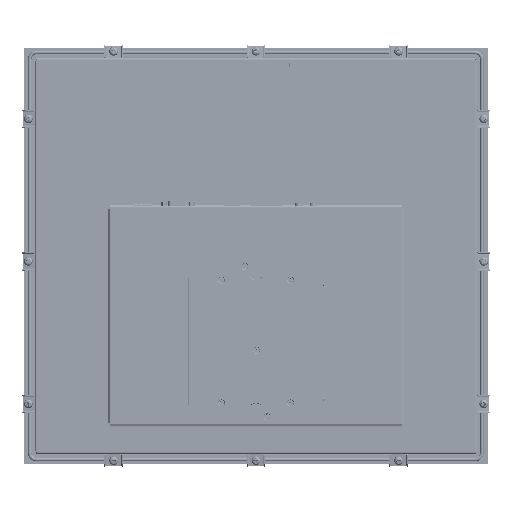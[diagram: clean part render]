
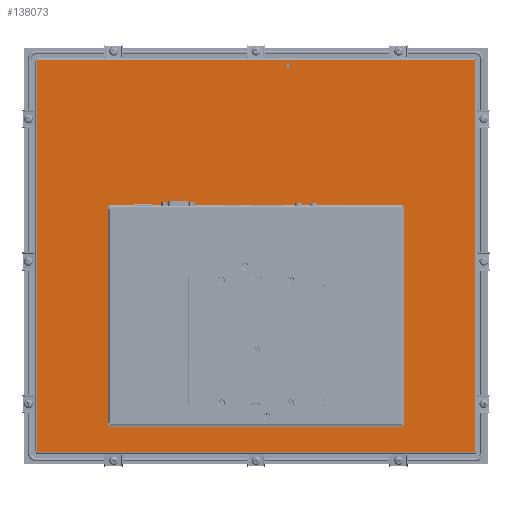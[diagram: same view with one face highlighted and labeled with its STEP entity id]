
A CAD part, front view. The second image highlights one B-rep face of the part: STEP entity #138073.
In plain terms, the highlighted planar face has unit normal (0, -1, 0).
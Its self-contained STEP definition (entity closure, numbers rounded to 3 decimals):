
#345 = CARTESIAN_POINT ( 'NONE',  ( -199.95, -15.75, 183.802 ) ) ;
#3753 = FACE_OUTER_BOUND ( 'NONE', #7405, .T. ) ;
#5679 = DIRECTION ( 'NONE',  ( -0.707, 0., -0.707 ) ) ;
#5685 = CARTESIAN_POINT ( 'NONE',  ( -135.25, -15.75, -148.698 ) ) ;
#6709 = CARTESIAN_POINT ( 'NONE',  ( 0., -15.75, -173.898 ) ) ;
#7405 = EDGE_LOOP ( 'NONE', ( #179424, #203818, #165835, #180793, #202106, #160353, #166605, #162971 ) ) ;
#8729 = VECTOR ( 'NONE', #5679, 1000. ) ;
#10323 = LINE ( 'NONE', #154120, #85788 ) ;
#10946 = CARTESIAN_POINT ( 'NONE',  ( 199.95, -15.75, -172.927 ) ) ;
#11408 = CARTESIAN_POINT ( 'NONE',  ( 135.25, -15.75, 49.802 ) ) ;
#13684 = VERTEX_POINT ( 'NONE', #10946 ) ;
#15161 = VERTEX_POINT ( 'NONE', #11408 ) ;
#16937 = DIRECTION ( 'NONE',  ( 0.707, 0., -0.707 ) ) ;
#21261 = LINE ( 'NONE', #6709, #195352 ) ;
#21980 = VECTOR ( 'NONE', #175817, 1000. ) ;
#22417 = DIRECTION ( 'NONE',  ( -1., 0., 0. ) ) ;
#26196 = CARTESIAN_POINT ( 'NONE',  ( 199.95, -15.75, 4.952 ) ) ;
#28977 = ORIENTED_EDGE ( 'NONE', *, *, #90505, .T. ) ;
#29108 = EDGE_CURVE ( 'NONE', #124026, #15161, #188758, .T. ) ;
#29269 = VECTOR ( 'NONE', #108227, 1000. ) ;
#30191 = VERTEX_POINT ( 'NONE', #30455 ) ;
#30455 = CARTESIAN_POINT ( 'NONE',  ( -133.25, -15.75, -150.698 ) ) ;
#31749 = ORIENTED_EDGE ( 'NONE', *, *, #108626, .T. ) ;
#32338 = VERTEX_POINT ( 'NONE', #126714 ) ;
#34876 = ORIENTED_EDGE ( 'NONE', *, *, #88995, .T. ) ;
#37159 = CARTESIAN_POINT ( 'NONE',  ( -199.95, -15.75, 4.952 ) ) ;
#37504 = VERTEX_POINT ( 'NONE', #345 ) ;
#42199 = CARTESIAN_POINT ( 'NONE',  ( -90.05, -15.75, 95.002 ) ) ;
#43067 = VERTEX_POINT ( 'NONE', #174205 ) ;
#43677 = DIRECTION ( 'NONE',  ( 0., 0., 1. ) ) ;
#44882 = VECTOR ( 'NONE', #150894, 1000. ) ;
#48538 = ORIENTED_EDGE ( 'NONE', *, *, #155669, .T. ) ;
#48544 = EDGE_CURVE ( 'NONE', #30191, #78393, #10323, .T. ) ;
#49425 = DIRECTION ( 'NONE',  ( 1., 0., 0. ) ) ;
#50373 = PLANE ( 'NONE',  #87707 ) ;
#55911 = DIRECTION ( 'NONE',  ( -0.707, 0., 0.707 ) ) ;
#56313 = DIRECTION ( 'NONE',  ( 1., 0., 0. ) ) ;
#60243 = EDGE_CURVE ( 'NONE', #119461, #37504, #71891, .T. ) ;
#64059 = VECTOR ( 'NONE', #151600, 1000. ) ;
#67442 = CARTESIAN_POINT ( 'NONE',  ( -135.25, -15.75, 49.802 ) ) ;
#70224 = LINE ( 'NONE', #37159, #44882 ) ;
#71891 = LINE ( 'NONE', #183642, #84157 ) ;
#74157 = LINE ( 'NONE', #42199, #140637 ) ;
#75242 = VECTOR ( 'NONE', #49425, 1000. ) ;
#78393 = VERTEX_POINT ( 'NONE', #5685 ) ;
#80138 = CARTESIAN_POINT ( 'NONE',  ( 144.45, -15.75, -139.498 ) ) ;
#80985 = CARTESIAN_POINT ( 'NONE',  ( 90.05, -15.75, 95.002 ) ) ;
#81982 = ORIENTED_EDGE ( 'NONE', *, *, #29108, .T. ) ;
#82416 = CARTESIAN_POINT ( 'NONE',  ( -135.25, -15.75, 51.802 ) ) ;
#84157 = VECTOR ( 'NONE', #198183, 1000. ) ;
#85127 = VECTOR ( 'NONE', #43677, 1000. ) ;
#85619 = CARTESIAN_POINT ( 'NONE',  ( -199.95, -15.75, 4.952 ) ) ;
#85788 = VECTOR ( 'NONE', #55911, 1000. ) ;
#87707 = AXIS2_PLACEMENT_3D ( 'NONE', #164153, #98936, #22417 ) ;
#88995 = EDGE_CURVE ( 'NONE', #32338, #124026, #131151, .T. ) ;
#89751 = CARTESIAN_POINT ( 'NONE',  ( 133.25, -15.75, 51.802 ) ) ;
#90505 = EDGE_CURVE ( 'NONE', #43067, #30191, #137023, .T. ) ;
#93856 = CARTESIAN_POINT ( 'NONE',  ( 135.25, -15.75, -148.698 ) ) ;
#95721 = EDGE_CURVE ( 'NONE', #13684, #203408, #114775, .T. ) ;
#98936 = DIRECTION ( 'NONE',  ( 0., 1., 0. ) ) ;
#100970 = FACE_BOUND ( 'NONE', #166563, .T. ) ;
#105680 = ORIENTED_EDGE ( 'NONE', *, *, #48544, .T. ) ;
#106794 = EDGE_CURVE ( 'NONE', #78393, #192848, #121593, .T. ) ;
#107029 = CARTESIAN_POINT ( 'NONE',  ( -135.25, -15.75, -150.698 ) ) ;
#108227 = DIRECTION ( 'NONE',  ( 0., 0., -1. ) ) ;
#108626 = EDGE_CURVE ( 'NONE', #15161, #141815, #173261, .T. ) ;
#109134 = DIRECTION ( 'NONE',  ( 0., 0., -1. ) ) ;
#114775 = LINE ( 'NONE', #194403, #137167 ) ;
#115214 = VECTOR ( 'NONE', #117444, 1000. ) ;
#117444 = DIRECTION ( 'NONE',  ( -1., 0., 0. ) ) ;
#119461 = VERTEX_POINT ( 'NONE', #168895 ) ;
#119631 = VERTEX_POINT ( 'NONE', #163609 ) ;
#121593 = LINE ( 'NONE', #107029, #64059 ) ;
#124026 = VERTEX_POINT ( 'NONE', #89751 ) ;
#126714 = CARTESIAN_POINT ( 'NONE',  ( -133.25, -15.75, 51.802 ) ) ;
#131151 = LINE ( 'NONE', #82416, #75242 ) ;
#131663 = VERTEX_POINT ( 'NONE', #160355 ) ;
#133303 = CARTESIAN_POINT ( 'NONE',  ( -199.95, -15.75, 182.831 ) ) ;
#134520 = EDGE_CURVE ( 'NONE', #131663, #170193, #21261, .T. ) ;
#135695 = VERTEX_POINT ( 'NONE', #133303 ) ;
#137023 = LINE ( 'NONE', #148447, #115214 ) ;
#137167 = VECTOR ( 'NONE', #177861, 1000. ) ;
#138073 = ADVANCED_FACE ( 'NONE', ( #3753, #100970 ), #50373, .F. ) ;
#140637 = VECTOR ( 'NONE', #171434, 1000. ) ;
#140851 = CARTESIAN_POINT ( 'NONE',  ( 199.95, -15.75, -173.898 ) ) ;
#141815 = VERTEX_POINT ( 'NONE', #93856 ) ;
#143415 = CARTESIAN_POINT ( 'NONE',  ( -199.95, -15.75, 4.952 ) ) ;
#146844 = CARTESIAN_POINT ( 'NONE',  ( 199.95, -15.75, 4.952 ) ) ;
#147671 = ORIENTED_EDGE ( 'NONE', *, *, #106794, .T. ) ;
#148447 = CARTESIAN_POINT ( 'NONE',  ( -135.25, -15.75, -150.698 ) ) ;
#148820 = DIRECTION ( 'NONE',  ( 0., 0., -1. ) ) ;
#148885 = LINE ( 'NONE', #146844, #21980 ) ;
#150894 = DIRECTION ( 'NONE',  ( 0., 0., -1. ) ) ;
#151600 = DIRECTION ( 'NONE',  ( 0., 0., 1. ) ) ;
#152343 = LINE ( 'NONE', #26196, #85127 ) ;
#154120 = CARTESIAN_POINT ( 'NONE',  ( -144.45, -15.75, -139.498 ) ) ;
#155669 = EDGE_CURVE ( 'NONE', #192848, #32338, #74157, .T. ) ;
#158578 = EDGE_CURVE ( 'NONE', #170193, #13684, #152343, .T. ) ;
#160353 = ORIENTED_EDGE ( 'NONE', *, *, #193051, .T. ) ;
#160355 = CARTESIAN_POINT ( 'NONE',  ( -199.95, -15.75, -173.898 ) ) ;
#161950 = LINE ( 'NONE', #80138, #8729 ) ;
#162971 = ORIENTED_EDGE ( 'NONE', *, *, #180047, .T. ) ;
#163609 = CARTESIAN_POINT ( 'NONE',  ( -199.95, -15.75, -172.927 ) ) ;
#164153 = CARTESIAN_POINT ( 'NONE',  ( 0., -15.75, 4.952 ) ) ;
#165835 = ORIENTED_EDGE ( 'NONE', *, *, #95721, .T. ) ;
#166249 = EDGE_CURVE ( 'NONE', #141815, #43067, #161950, .T. ) ;
#166563 = EDGE_LOOP ( 'NONE', ( #34876, #81982, #31749, #186819, #28977, #105680, #147671, #48538 ) ) ;
#166605 = ORIENTED_EDGE ( 'NONE', *, *, #182011, .T. ) ;
#167061 = VECTOR ( 'NONE', #148820, 1000. ) ;
#168895 = CARTESIAN_POINT ( 'NONE',  ( 199.95, -15.75, 183.802 ) ) ;
#170190 = CARTESIAN_POINT ( 'NONE',  ( 135.25, -15.75, -150.698 ) ) ;
#170193 = VERTEX_POINT ( 'NONE', #140851 ) ;
#170227 = VECTOR ( 'NONE', #109134, 1000. ) ;
#171434 = DIRECTION ( 'NONE',  ( 0.707, 0., 0.707 ) ) ;
#173261 = LINE ( 'NONE', #170190, #170227 ) ;
#174205 = CARTESIAN_POINT ( 'NONE',  ( 133.25, -15.75, -150.698 ) ) ;
#174417 = LINE ( 'NONE', #143415, #29269 ) ;
#175817 = DIRECTION ( 'NONE',  ( 0., 0., 1. ) ) ;
#177861 = DIRECTION ( 'NONE',  ( 0., 0., 1. ) ) ;
#179424 = ORIENTED_EDGE ( 'NONE', *, *, #134520, .T. ) ;
#180047 = EDGE_CURVE ( 'NONE', #119631, #131663, #194381, .T. ) ;
#180793 = ORIENTED_EDGE ( 'NONE', *, *, #187519, .T. ) ;
#181231 = CARTESIAN_POINT ( 'NONE',  ( 199.95, -15.75, 182.831 ) ) ;
#182011 = EDGE_CURVE ( 'NONE', #135695, #119631, #174417, .T. ) ;
#183642 = CARTESIAN_POINT ( 'NONE',  ( 0., -15.75, 183.802 ) ) ;
#186819 = ORIENTED_EDGE ( 'NONE', *, *, #166249, .T. ) ;
#187519 = EDGE_CURVE ( 'NONE', #203408, #119461, #148885, .T. ) ;
#188758 = LINE ( 'NONE', #80985, #204426 ) ;
#192848 = VERTEX_POINT ( 'NONE', #67442 ) ;
#193051 = EDGE_CURVE ( 'NONE', #37504, #135695, #70224, .T. ) ;
#194381 = LINE ( 'NONE', #85619, #167061 ) ;
#194403 = CARTESIAN_POINT ( 'NONE',  ( 199.95, -15.75, 4.952 ) ) ;
#195352 = VECTOR ( 'NONE', #56313, 1000. ) ;
#198183 = DIRECTION ( 'NONE',  ( -1., 0., 0. ) ) ;
#202106 = ORIENTED_EDGE ( 'NONE', *, *, #60243, .T. ) ;
#203408 = VERTEX_POINT ( 'NONE', #181231 ) ;
#203818 = ORIENTED_EDGE ( 'NONE', *, *, #158578, .T. ) ;
#204426 = VECTOR ( 'NONE', #16937, 1000. ) ;
